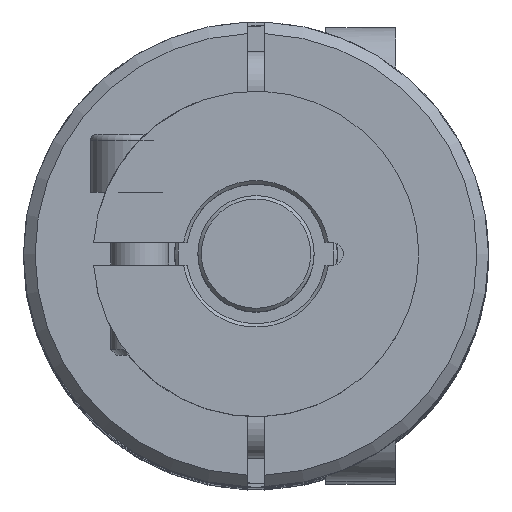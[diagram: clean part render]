
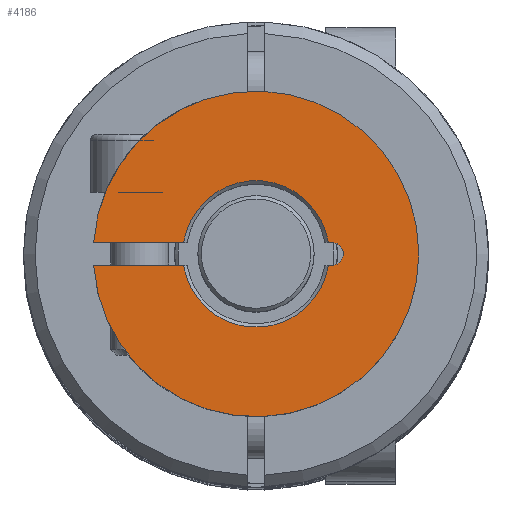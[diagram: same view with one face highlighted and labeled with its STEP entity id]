
A CAD part, top view. The second image highlights one B-rep face of the part: STEP entity #4186.
In plain terms, the highlighted planar face has unit normal (0, 0, 1) as drawn and (0, 0, -1) by its records, which use the part's own axes.
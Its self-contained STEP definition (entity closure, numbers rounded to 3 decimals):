
#250=PLANE('',#4820);
#461=FACE_OUTER_BOUND('',#713,.T.);
#713=EDGE_LOOP('',(#3800,#3801,#3802,#3803,#3804,#3805,#3806,#3807));
#986=CIRCLE('',#4802,6.3);
#987=CIRCLE('',#4804,6.3);
#992=CIRCLE('',#4815,1.);
#995=CIRCLE('',#4821,14.);
#1191=LINE('',#7942,#1403);
#1196=LINE('',#7971,#1408);
#1205=LINE('',#8083,#1417);
#1208=LINE('',#8092,#1420);
#1403=VECTOR('',#5930,10.);
#1408=VECTOR('',#5947,10.);
#1417=VECTOR('',#5988,10.);
#1420=VECTOR('',#5999,10.);
#1938=VERTEX_POINT('',#7937);
#1939=VERTEX_POINT('',#7941);
#1947=VERTEX_POINT('',#7966);
#1948=VERTEX_POINT('',#7970);
#1952=VERTEX_POINT('',#7982);
#1953=VERTEX_POINT('',#7988);
#1961=VERTEX_POINT('',#8081);
#1963=VERTEX_POINT('',#8090);
#2547=EDGE_CURVE('',#1939,#1938,#1191,.T.);
#2558=EDGE_CURVE('',#1948,#1947,#1196,.T.);
#2565=EDGE_CURVE('',#1952,#1947,#986,.T.);
#2567=EDGE_CURVE('',#1953,#1938,#987,.T.);
#2579=EDGE_CURVE('',#1952,#1961,#1205,.T.);
#2580=EDGE_CURVE('',#1939,#1961,#992,.T.);
#2584=EDGE_CURVE('',#1953,#1963,#1208,.T.);
#2586=EDGE_CURVE('',#1963,#1948,#995,.T.);
#3800=ORIENTED_EDGE('',*,*,#2565,.F.);
#3801=ORIENTED_EDGE('',*,*,#2579,.T.);
#3802=ORIENTED_EDGE('',*,*,#2580,.F.);
#3803=ORIENTED_EDGE('',*,*,#2547,.T.);
#3804=ORIENTED_EDGE('',*,*,#2567,.F.);
#3805=ORIENTED_EDGE('',*,*,#2584,.T.);
#3806=ORIENTED_EDGE('',*,*,#2586,.T.);
#3807=ORIENTED_EDGE('',*,*,#2558,.T.);
#4186=ADVANCED_FACE('',(#461),#250,.F.);
#4802=AXIS2_PLACEMENT_3D('',#7986,#5959,#5960);
#4804=AXIS2_PLACEMENT_3D('',#7992,#5963,#5964);
#4815=AXIS2_PLACEMENT_3D('',#8085,#5991,#5992);
#4820=AXIS2_PLACEMENT_3D('',#8095,#6004,#6005);
#4821=AXIS2_PLACEMENT_3D('',#8096,#6006,#6007);
#5930=DIRECTION('',(1.,0.,0.));
#5947=DIRECTION('',(-1.,0.,0.));
#5959=DIRECTION('center_axis',(0.,0.,-1.));
#5960=DIRECTION('ref_axis',(-1.,0.,0.));
#5963=DIRECTION('center_axis',(0.,0.,-1.));
#5964=DIRECTION('ref_axis',(-1.,0.,0.));
#5988=DIRECTION('',(-1.,0.,0.));
#5991=DIRECTION('center_axis',(0.,0.,-1.));
#5992=DIRECTION('ref_axis',(-0.707,-0.707,0.));
#5999=DIRECTION('',(1.,0.,0.));
#6004=DIRECTION('center_axis',(0.,0.,1.));
#6005=DIRECTION('ref_axis',(1.,0.,0.));
#6006=DIRECTION('center_axis',(0.,0.,-1.));
#6007=DIRECTION('ref_axis',(-1.,0.,0.));
#7937=CARTESIAN_POINT('',(-6.22,-1.,-4.95));
#7941=CARTESIAN_POINT('',(-6.5,-1.,-4.95));
#7942=CARTESIAN_POINT('',(-3.75,-1.,-4.95));
#7966=CARTESIAN_POINT('',(6.22,1.,-4.95));
#7970=CARTESIAN_POINT('',(13.964,1.,-4.95));
#7971=CARTESIAN_POINT('',(7.,1.,-4.95));
#7982=CARTESIAN_POINT('',(-6.22,1.,-4.95));
#7986=CARTESIAN_POINT('Origin',(0.,0.,-4.95));
#7988=CARTESIAN_POINT('',(6.22,-1.,-4.95));
#7992=CARTESIAN_POINT('Origin',(0.,0.,-4.95));
#8081=CARTESIAN_POINT('',(-6.5,1.,-4.95));
#8083=CARTESIAN_POINT('',(7.,1.,-4.95));
#8085=CARTESIAN_POINT('Origin',(-6.5,0.,-4.95));
#8090=CARTESIAN_POINT('',(13.964,-1.,-4.95));
#8092=CARTESIAN_POINT('',(-3.75,-1.,-4.95));
#8095=CARTESIAN_POINT('Origin',(0.,0.,-4.95));
#8096=CARTESIAN_POINT('Origin',(0.,0.,-4.95));
